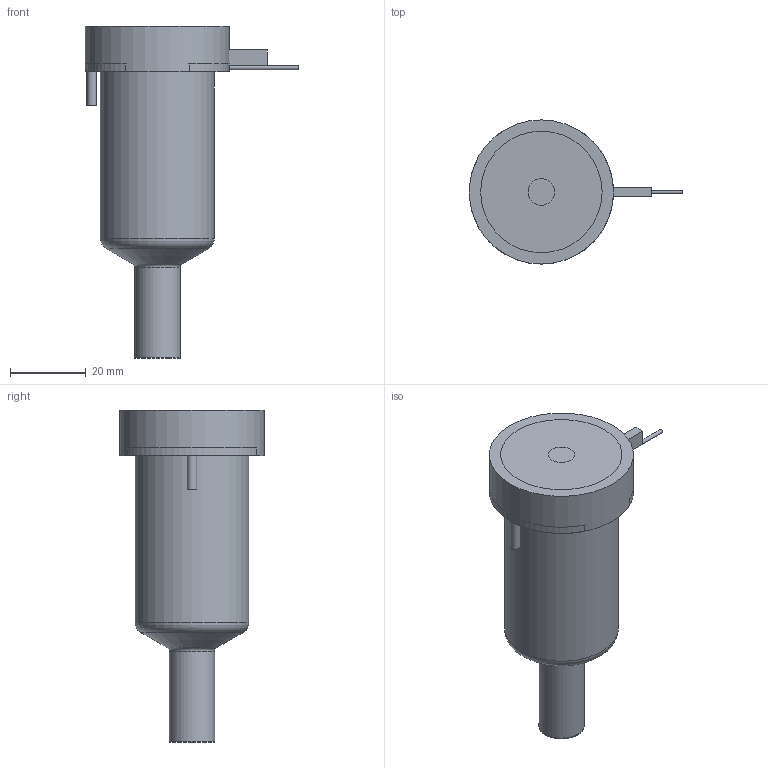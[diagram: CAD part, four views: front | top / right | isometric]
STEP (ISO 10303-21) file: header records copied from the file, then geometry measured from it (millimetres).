
FILE_DESCRIPTION(/* description */ (''),/* implementation_level */ '2;1');
FILE_NAME(/* name */ 'BXYCN16055P4U_250C_a',/* time_stamp */ '2016-02-23T09:22:02+13:00',/* author */ (''),/* organization */ (''),/* preprocessor_version */ 'ST-DEVELOPER v9',/* originating_system */ 'UGS - NX 4.0',/* authorisation */ '');
FILE_SCHEMA (('CONFIG_CONTROL_DESIGN'));
Length unit declared in the file: millimetre
Products named in the file (1): matt48E8yt1r
Bounding box: 56.25 x 38 x 87.47 mm (x, y, z)
Volume: 88029.8 mm3; surface area: 18351.9 mm2
Topology: 2 solids, 2 shells, 67 faces, 149 edges, 97 vertices
Faces by surface type: plane 31, cylinder 22, torus 7, cone 5, bspline 1, sphere 1
Full cylindrical faces by diameter (mm): 1 x2, 1.5 x1, 2.5 x1, 5 x1, 7 x1, 11.61 x1, 11.995 x2, 14.8 x1, 25.4 x1, 30 x1, 38 x1
Entity records: 1951 total; most frequent: CARTESIAN_POINT 487, DIRECTION 302, ORIENTED_EDGE 234, AXIS2_PLACEMENT_3D 130, EDGE_CURVE 117, EDGE_LOOP 104, VERTEX_POINT 89, ADVANCED_FACE 67
